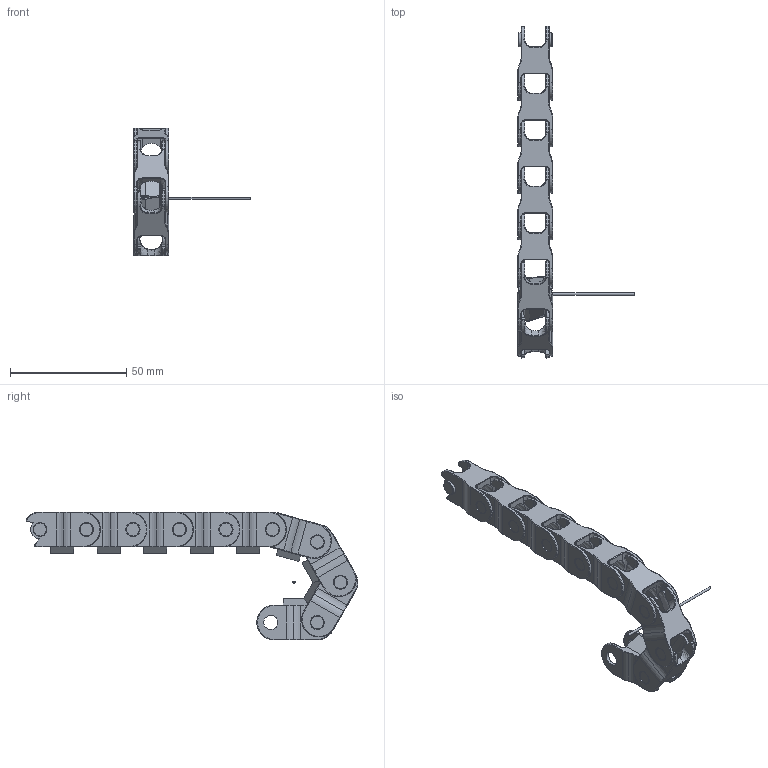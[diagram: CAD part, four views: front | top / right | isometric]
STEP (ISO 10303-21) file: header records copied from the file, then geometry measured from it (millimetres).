
FILE_DESCRIPTION((''),'2;1');
FILE_NAME('C:\Uebbing\PARAMETERKETTEN\KOLIBRI\Kol_15_015_4\KOLIBRI 15_015_4_R20.stp','2012-03-02T14:56:10',('Uebbing'),(''),'Autodesk Inventor 10','Autodesk Inventor 10','');
FILE_SCHEMA(('AUTOMOTIVE_DESIGN { 1 0 10303 214 1 1 1 1 }'));
Length unit declared in the file: millimetre
Products named in the file (3): KOLIBRI 15_015_4_PARAMETRISCH; Kol_15_015_4; Achse
Assembly tree (10 placements, depth 2):
  KOLIBRI 15_015_4_PARAMETRISCH
    Kol_15_015_4  x9
    Achse
Bounding box: 50 x 142.75 x 55 mm (x, y, z)
Volume: 16534 mm3; surface area: 20789.6 mm2
Topology: 10 solids, 10 shells, 1083 faces, 2650 edges, 1605 vertices
Faces by surface type: bspline 1080, plane 2, cylinder 1
Full cylindrical faces by diameter (mm): 1 x1
Entity records: 5732 total; most frequent: CARTESIAN_POINT 3160, ORIENTED_EDGE 574, DIRECTION 428, EDGE_CURVE 287, VERTEX_POINT 177, AXIS2_PLACEMENT_3D 150, EDGE_LOOP 136, CIRCLE 130
